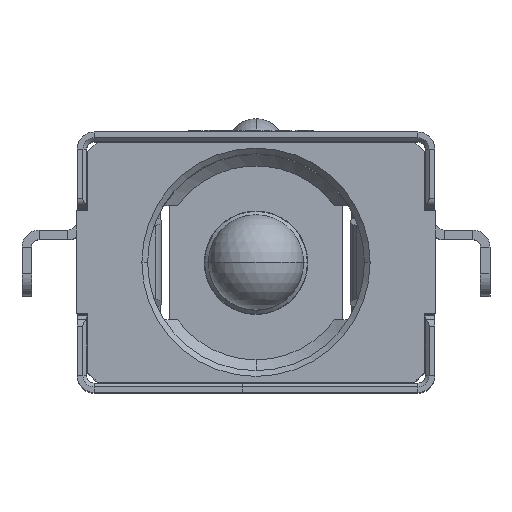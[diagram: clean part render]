
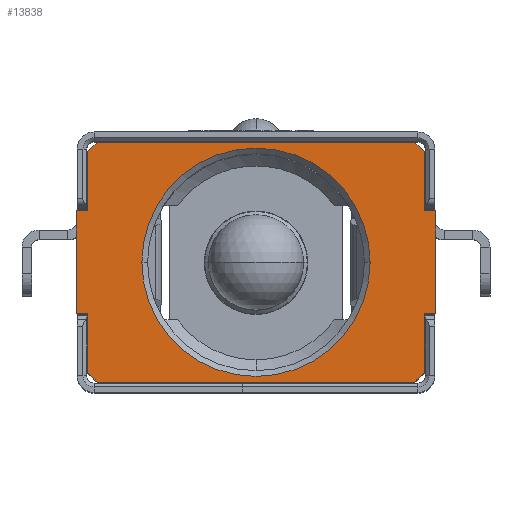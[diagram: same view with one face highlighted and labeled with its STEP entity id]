
A CAD part, top view. The second image highlights one B-rep face of the part: STEP entity #13838.
In plain terms, the highlighted planar face has unit normal (0, 0, 1).
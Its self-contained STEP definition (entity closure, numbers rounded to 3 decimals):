
#81 = CARTESIAN_POINT ( 'NONE',  ( -4.175, -3.15, 14. ) ) ;
#106 = CARTESIAN_POINT ( 'NONE',  ( 4.425, -2.9, 14. ) ) ;
#141 = EDGE_CURVE ( 'NONE', #10965, #2194, #931, .T. ) ;
#190 = VECTOR ( 'NONE', #24752, 1000. ) ;
#334 = VERTEX_POINT ( 'NONE', #29880 ) ;
#480 = EDGE_CURVE ( 'NONE', #9846, #26439, #14924, .T. ) ;
#684 = VERTEX_POINT ( 'NONE', #12994 ) ;
#799 = LINE ( 'NONE', #11383, #6539 ) ;
#931 = LINE ( 'NONE', #6640, #4407 ) ;
#1227 = DIRECTION ( 'NONE',  ( 0., 1., 0. ) ) ;
#1321 = ORIENTED_EDGE ( 'NONE', *, *, #2837, .F. ) ;
#1392 = LINE ( 'NONE', #31188, #22681 ) ;
#1562 = EDGE_CURVE ( 'NONE', #2194, #19428, #3832, .T. ) ;
#2007 = ORIENTED_EDGE ( 'NONE', *, *, #19371, .T. ) ;
#2194 = VERTEX_POINT ( 'NONE', #11905 ) ;
#2351 = CARTESIAN_POINT ( 'NONE',  ( -4.725, -1.35, 14. ) ) ;
#2791 = DIRECTION ( 'NONE',  ( -0.707, -0.707, 0. ) ) ;
#2837 = EDGE_CURVE ( 'NONE', #334, #8504, #26840, .T. ) ;
#2931 = CARTESIAN_POINT ( 'NONE',  ( -4.175, -3.15, 14. ) ) ;
#2954 = VECTOR ( 'NONE', #29325, 1000. ) ;
#3326 = DIRECTION ( 'NONE',  ( -1., 0., 0. ) ) ;
#3684 = ORIENTED_EDGE ( 'NONE', *, *, #5247, .T. ) ;
#3832 = LINE ( 'NONE', #14418, #27725 ) ;
#3953 = CARTESIAN_POINT ( 'NONE',  ( -4.425, -1.35, 14. ) ) ;
#4162 = DIRECTION ( 'NONE',  ( 1., 0., 0. ) ) ;
#4407 = VECTOR ( 'NONE', #9422, 1000. ) ;
#4570 = LINE ( 'NONE', #15151, #10183 ) ;
#5247 = EDGE_CURVE ( 'NONE', #5343, #32576, #1392, .T. ) ;
#5343 = VERTEX_POINT ( 'NONE', #2351 ) ;
#5383 = CARTESIAN_POINT ( 'NONE',  ( -4.725, 1.35, 14. ) ) ;
#5498 = VERTEX_POINT ( 'NONE', #19516 ) ;
#6539 = VECTOR ( 'NONE', #19193, 1000. ) ;
#6640 = CARTESIAN_POINT ( 'NONE',  ( 4.725, 1.35, 14. ) ) ;
#6820 = DIRECTION ( 'NONE',  ( 0., -1., 0. ) ) ;
#7415 = CIRCLE ( 'NONE', #15172, 3. ) ;
#7518 = VECTOR ( 'NONE', #18068, 1000. ) ;
#7825 = LINE ( 'NONE', #10428, #27869 ) ;
#8069 = ORIENTED_EDGE ( 'NONE', *, *, #23182, .T. ) ;
#8101 = VERTEX_POINT ( 'NONE', #16649 ) ;
#8198 = DIRECTION ( 'NONE',  ( 0., 0., 1. ) ) ;
#8236 = LINE ( 'NONE', #34288, #29142 ) ;
#8504 = VERTEX_POINT ( 'NONE', #9157 ) ;
#8649 = LINE ( 'NONE', #19230, #2954 ) ;
#8772 = ORIENTED_EDGE ( 'NONE', *, *, #31564, .T. ) ;
#8870 = CARTESIAN_POINT ( 'NONE',  ( 0., 0., 14. ) ) ;
#8889 = EDGE_LOOP ( 'NONE', ( #19838, #8772, #2007, #3684, #30986, #24535, #8069, #25249, #32524, #13782, #9804, #9566, #15813, #20521, #11548, #17358 ) ) ;
#8944 = DIRECTION ( 'NONE',  ( 0., 0., 1. ) ) ;
#9157 = CARTESIAN_POINT ( 'NONE',  ( 3., 0., 14. ) ) ;
#9293 = CARTESIAN_POINT ( 'NONE',  ( 0., 0., 14. ) ) ;
#9381 = DIRECTION ( 'NONE',  ( 1., 0., 0. ) ) ;
#9422 = DIRECTION ( 'NONE',  ( -1., 0., 0. ) ) ;
#9566 = ORIENTED_EDGE ( 'NONE', *, *, #141, .T. ) ;
#9804 = ORIENTED_EDGE ( 'NONE', *, *, #23101, .T. ) ;
#9825 = EDGE_CURVE ( 'NONE', #32576, #29498, #799, .T. ) ;
#9846 = VERTEX_POINT ( 'NONE', #106 ) ;
#10048 = CARTESIAN_POINT ( 'NONE',  ( 4.425, -2.9, 14. ) ) ;
#10183 = VECTOR ( 'NONE', #30806, 1000. ) ;
#10190 = CARTESIAN_POINT ( 'NONE',  ( -4.425, 2.9, 14. ) ) ;
#10428 = CARTESIAN_POINT ( 'NONE',  ( 4.425, -2.9, 14. ) ) ;
#10444 = CARTESIAN_POINT ( 'NONE',  ( 4.725, 1.35, 14. ) ) ;
#10800 = CARTESIAN_POINT ( 'NONE',  ( 4.425, 2.9, 14. ) ) ;
#10886 = CARTESIAN_POINT ( 'NONE',  ( 4.175, 3.15, 14. ) ) ;
#10965 = VERTEX_POINT ( 'NONE', #10444 ) ;
#11010 = DIRECTION ( 'NONE',  ( 1., 0., 0. ) ) ;
#11378 = PLANE ( 'NONE',  #31921 ) ;
#11383 = CARTESIAN_POINT ( 'NONE',  ( -4.425, -1.35, 14. ) ) ;
#11436 = DIRECTION ( 'NONE',  ( -0.707, 0.707, 0. ) ) ;
#11548 = ORIENTED_EDGE ( 'NONE', *, *, #24881, .T. ) ;
#11874 = AXIS2_PLACEMENT_3D ( 'NONE', #31997, #8198, #3326 ) ;
#11905 = CARTESIAN_POINT ( 'NONE',  ( 4.425, 1.35, 14. ) ) ;
#12783 = EDGE_CURVE ( 'NONE', #22607, #18692, #23740, .T. ) ;
#12794 = DIRECTION ( 'NONE',  ( 0.707, 0.707, 0. ) ) ;
#12994 = CARTESIAN_POINT ( 'NONE',  ( -4.175, -3.15, 14. ) ) ;
#13782 = ORIENTED_EDGE ( 'NONE', *, *, #14268, .T. ) ;
#13838 = ADVANCED_FACE ( 'NONE', ( #30312, #22473 ), #11378, .T. ) ;
#14268 = EDGE_CURVE ( 'NONE', #26439, #8101, #16693, .T. ) ;
#14374 = EDGE_CURVE ( 'NONE', #9846, #5498, #7825, .T. ) ;
#14418 = CARTESIAN_POINT ( 'NONE',  ( 4.425, 1.35, 14. ) ) ;
#14924 = LINE ( 'NONE', #10048, #27254 ) ;
#14954 = EDGE_CURVE ( 'NONE', #33912, #19428, #8649, .T. ) ;
#15151 = CARTESIAN_POINT ( 'NONE',  ( -4.725, 1.35, 14. ) ) ;
#15172 = AXIS2_PLACEMENT_3D ( 'NONE', #8870, #26587, #9381 ) ;
#15813 = ORIENTED_EDGE ( 'NONE', *, *, #1562, .T. ) ;
#16377 = LINE ( 'NONE', #81, #25272 ) ;
#16525 = CARTESIAN_POINT ( 'NONE',  ( 4.425, -1.35, 14. ) ) ;
#16647 = EDGE_LOOP ( 'NONE', ( #17631, #1321 ) ) ;
#16649 = CARTESIAN_POINT ( 'NONE',  ( 4.725, -1.35, 14. ) ) ;
#16693 = LINE ( 'NONE', #16525, #31186 ) ;
#17358 = ORIENTED_EDGE ( 'NONE', *, *, #12783, .F. ) ;
#17631 = ORIENTED_EDGE ( 'NONE', *, *, #21377, .F. ) ;
#18068 = DIRECTION ( 'NONE',  ( -1., 0., 0. ) ) ;
#18692 = VERTEX_POINT ( 'NONE', #22581 ) ;
#19193 = DIRECTION ( 'NONE',  ( 0., -1., 0. ) ) ;
#19230 = CARTESIAN_POINT ( 'NONE',  ( 4.175, 3.15, 14. ) ) ;
#19356 = LINE ( 'NONE', #29796, #190 ) ;
#19371 = EDGE_CURVE ( 'NONE', #19742, #5343, #4570, .T. ) ;
#19428 = VERTEX_POINT ( 'NONE', #10800 ) ;
#19516 = CARTESIAN_POINT ( 'NONE',  ( 4.175, -3.15, 14. ) ) ;
#19742 = VERTEX_POINT ( 'NONE', #5383 ) ;
#19838 = ORIENTED_EDGE ( 'NONE', *, *, #31985, .T. ) ;
#19866 = DIRECTION ( 'NONE',  ( 1., 0., 0. ) ) ;
#20521 = ORIENTED_EDGE ( 'NONE', *, *, #14954, .F. ) ;
#21377 = EDGE_CURVE ( 'NONE', #8504, #334, #7415, .T. ) ;
#21823 = CARTESIAN_POINT ( 'NONE',  ( 4.425, -1.35, 14. ) ) ;
#22445 = LINE ( 'NONE', #32880, #25164 ) ;
#22473 = FACE_OUTER_BOUND ( 'NONE', #8889, .T. ) ;
#22482 = EDGE_CURVE ( 'NONE', #684, #29498, #29497, .T. ) ;
#22581 = CARTESIAN_POINT ( 'NONE',  ( -4.175, 3.15, 14. ) ) ;
#22607 = VERTEX_POINT ( 'NONE', #33487 ) ;
#22681 = VECTOR ( 'NONE', #4162, 1000. ) ;
#23101 = EDGE_CURVE ( 'NONE', #8101, #10965, #8236, .T. ) ;
#23182 = EDGE_CURVE ( 'NONE', #684, #5498, #16377, .T. ) ;
#23241 = DIRECTION ( 'NONE',  ( 0., 1., 0. ) ) ;
#23543 = VECTOR ( 'NONE', #11436, 1000. ) ;
#23740 = LINE ( 'NONE', #10190, #31341 ) ;
#24193 = CARTESIAN_POINT ( 'NONE',  ( -4.425, 1.35, 14. ) ) ;
#24535 = ORIENTED_EDGE ( 'NONE', *, *, #22482, .F. ) ;
#24752 = DIRECTION ( 'NONE',  ( -1., 0., 0. ) ) ;
#24881 = EDGE_CURVE ( 'NONE', #33912, #18692, #26228, .T. ) ;
#25164 = VECTOR ( 'NONE', #6820, 1000. ) ;
#25249 = ORIENTED_EDGE ( 'NONE', *, *, #14374, .F. ) ;
#25272 = VECTOR ( 'NONE', #11010, 1000. ) ;
#26228 = LINE ( 'NONE', #33882, #7518 ) ;
#26439 = VERTEX_POINT ( 'NONE', #21823 ) ;
#26587 = DIRECTION ( 'NONE',  ( 0., 0., 1. ) ) ;
#26840 = CIRCLE ( 'NONE', #11874, 3. ) ;
#27254 = VECTOR ( 'NONE', #23241, 1000. ) ;
#27725 = VECTOR ( 'NONE', #1227, 1000. ) ;
#27869 = VECTOR ( 'NONE', #2791, 1000. ) ;
#28750 = CARTESIAN_POINT ( 'NONE',  ( -4.425, -2.9, 14. ) ) ;
#29142 = VECTOR ( 'NONE', #29589, 1000. ) ;
#29325 = DIRECTION ( 'NONE',  ( 0.707, -0.707, 0. ) ) ;
#29498 = VERTEX_POINT ( 'NONE', #28750 ) ;
#29497 = LINE ( 'NONE', #2931, #23543 ) ;
#29589 = DIRECTION ( 'NONE',  ( 0., 1., 0. ) ) ;
#29796 = CARTESIAN_POINT ( 'NONE',  ( -4.425, 1.35, 14. ) ) ;
#29880 = CARTESIAN_POINT ( 'NONE',  ( -3., 0., 14. ) ) ;
#30312 = FACE_BOUND ( 'NONE', #16647, .T. ) ;
#30806 = DIRECTION ( 'NONE',  ( 0., -1., 0. ) ) ;
#30986 = ORIENTED_EDGE ( 'NONE', *, *, #9825, .T. ) ;
#31186 = VECTOR ( 'NONE', #32181, 1000. ) ;
#31188 = CARTESIAN_POINT ( 'NONE',  ( -4.725, -1.35, 14. ) ) ;
#31341 = VECTOR ( 'NONE', #12794, 1000. ) ;
#31564 = EDGE_CURVE ( 'NONE', #31871, #19742, #19356, .T. ) ;
#31871 = VERTEX_POINT ( 'NONE', #24193 ) ;
#31921 = AXIS2_PLACEMENT_3D ( 'NONE', #9293, #8944, #19866 ) ;
#31985 = EDGE_CURVE ( 'NONE', #22607, #31871, #22445, .T. ) ;
#31997 = CARTESIAN_POINT ( 'NONE',  ( 0., 0., 14. ) ) ;
#32181 = DIRECTION ( 'NONE',  ( 1., 0., 0. ) ) ;
#32524 = ORIENTED_EDGE ( 'NONE', *, *, #480, .T. ) ;
#32576 = VERTEX_POINT ( 'NONE', #3953 ) ;
#32880 = CARTESIAN_POINT ( 'NONE',  ( -4.425, 2.9, 14. ) ) ;
#33487 = CARTESIAN_POINT ( 'NONE',  ( -4.425, 2.9, 14. ) ) ;
#33882 = CARTESIAN_POINT ( 'NONE',  ( 4.175, 3.15, 14. ) ) ;
#33912 = VERTEX_POINT ( 'NONE', #10886 ) ;
#34288 = CARTESIAN_POINT ( 'NONE',  ( 4.725, -1.35, 14. ) ) ;
